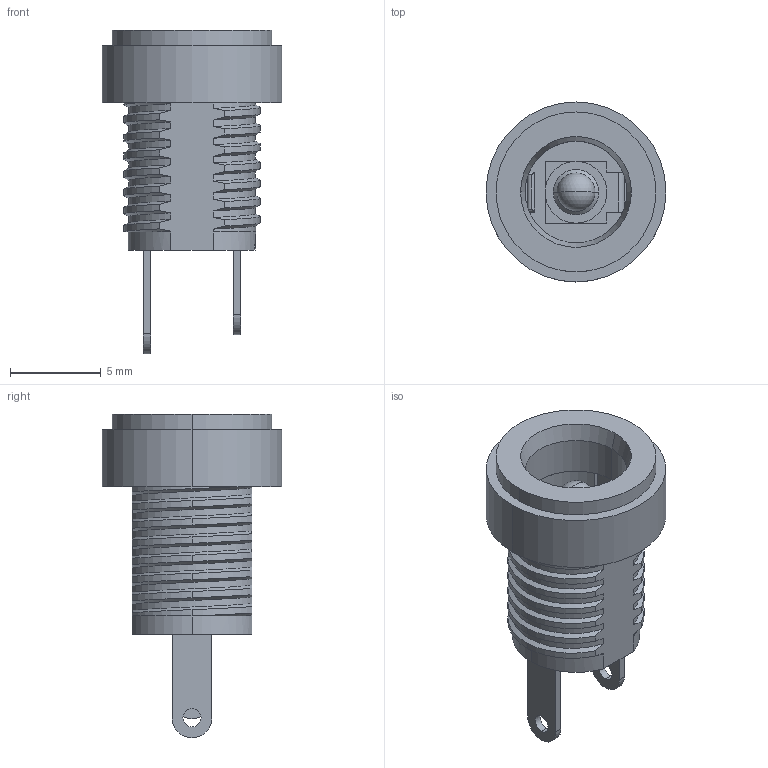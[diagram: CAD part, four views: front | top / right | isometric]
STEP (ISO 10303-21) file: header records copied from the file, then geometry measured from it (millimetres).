
FILE_DESCRIPTION (( 'STEP AP214' ), '1' );
FILE_NAME ('Jack_2.1_ST.STEP', '2024-01-21T22:20:25', ( '' ), ( '' ), 'SwSTEP 2.0', 'SolidWorks 2022', '' );
FILE_SCHEMA (( 'AUTOMOTIVE_DESIGN' ));
Length unit declared in the file: millimetre
Products named in the file (1): Jack_2.1_ST
Bounding box: 9.9 x 9.9 x 17.8 mm (x, y, z)
Volume: 392.2 mm3; surface area: 1044.1 mm2
Topology: 4 solids, 4 shells, 209 faces, 562 edges, 367 vertices
Faces by surface type: bspline 67, cylinder 66, plane 64, cone 4, sphere 4, torus 4
Entity records: 22130 total; most frequent: CARTESIAN_POINT 17551, ORIENTED_EDGE 1116, DIRECTION 717, EDGE_CURVE 558, VERTEX_POINT 365, AXIS2_PLACEMENT_3D 251, EDGE_LOOP 229, LINE 215
